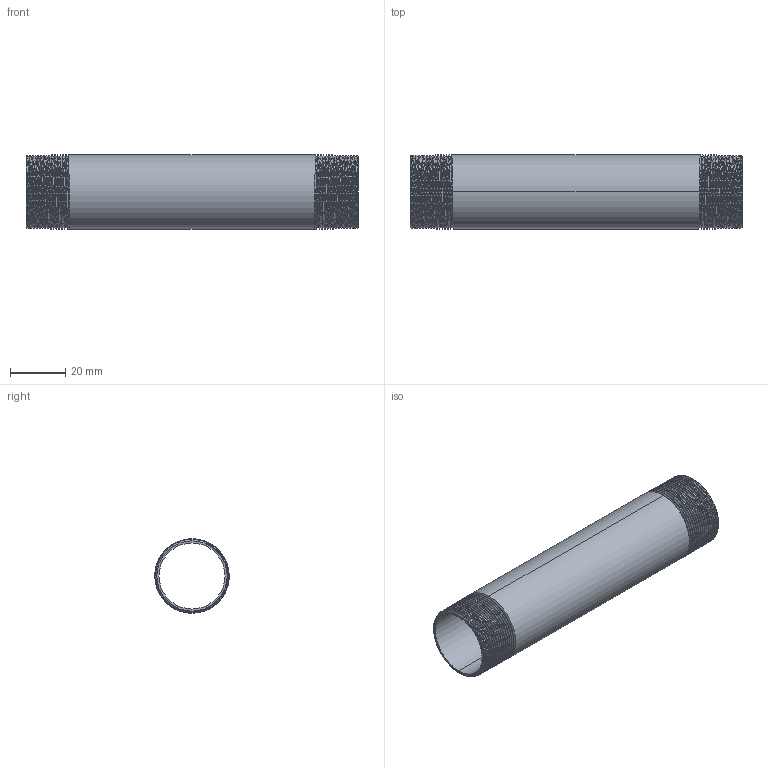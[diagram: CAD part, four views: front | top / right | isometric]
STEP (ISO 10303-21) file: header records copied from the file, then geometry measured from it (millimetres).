
FILE_DESCRIPTION (( 'STEP AP203' ), '1' );
FILE_NAME ('3D_R210_3-4x120_17185840.STEP', '2024-08-16T13:47:25', ( '' ), ( '' ), 'SwSTEP 2.0', 'SolidWorks 2024', '' );
FILE_SCHEMA (( 'CONFIG_CONTROL_DESIGN' ));
Length unit declared in the file: millimetre
Products named in the file (1): 3D_R210_3-4x120_17185840
Bounding box: 120 x 26.89 x 26.9 mm (x, y, z)
Volume: 13553.5 mm3; surface area: 20559.5 mm2
Topology: 1 solids, 1 shells, 80 faces, 226 edges, 148 vertices
Faces by surface type: cone 66, bspline 6, cylinder 4, plane 4
Entity records: 13361 total; most frequent: CARTESIAN_POINT 11499, ORIENTED_EDGE 452, DIRECTION 254, EDGE_CURVE 226, VERTEX_POINT 148, B_SPLINE_CURVE_WITH_KNOTS 128, AXIS2_PLACEMENT_3D 89, EDGE_LOOP 82
